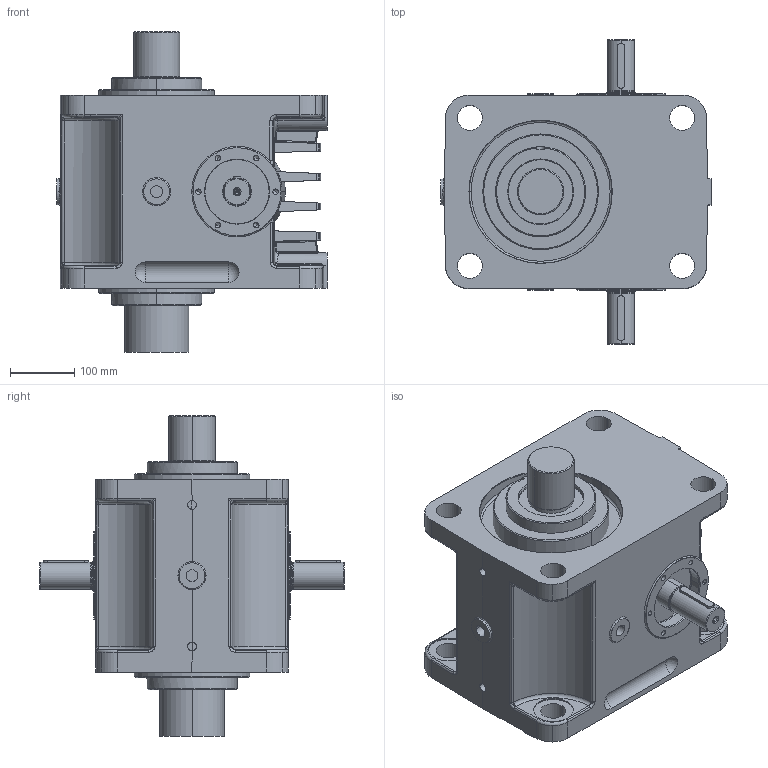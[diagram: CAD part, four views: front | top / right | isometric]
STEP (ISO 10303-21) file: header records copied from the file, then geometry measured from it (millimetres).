
FILE_DESCRIPTION(('STEP AP203'),'1');
FILE_NAME('hmc35-gn-kd-kd-1f-ge-0100-0000-tr100x16-b-0-o-0.stp','2025-08-19T11:53:10',('TraceParts'),('TraceParts S.A.'),'Spatial InterOp 3D',' ',' ');
FILE_SCHEMA(('CONFIG_CONTROL_DESIGN'));
Length unit declared in the file: millimetre
Products named in the file (1): 1
Bounding box: 420 x 474 x 499 mm (x, y, z)
Volume: 33196899.4 mm3; surface area: 1279575 mm2
Topology: 7 solids, 7 shells, 629 faces, 1572 edges, 953 vertices
Faces by surface type: cylinder 292, plane 131, cone 88, torus 56, bspline 54, sphere 8
Entity records: 20939 total; most frequent: CARTESIAN_POINT 5776, DIRECTION 3397, ORIENTED_EDGE 3060, EDGE_CURVE 1530, AXIS2_PLACEMENT_3D 1400, VERTEX_POINT 953, EDGE_LOOP 687, CIRCLE 676
